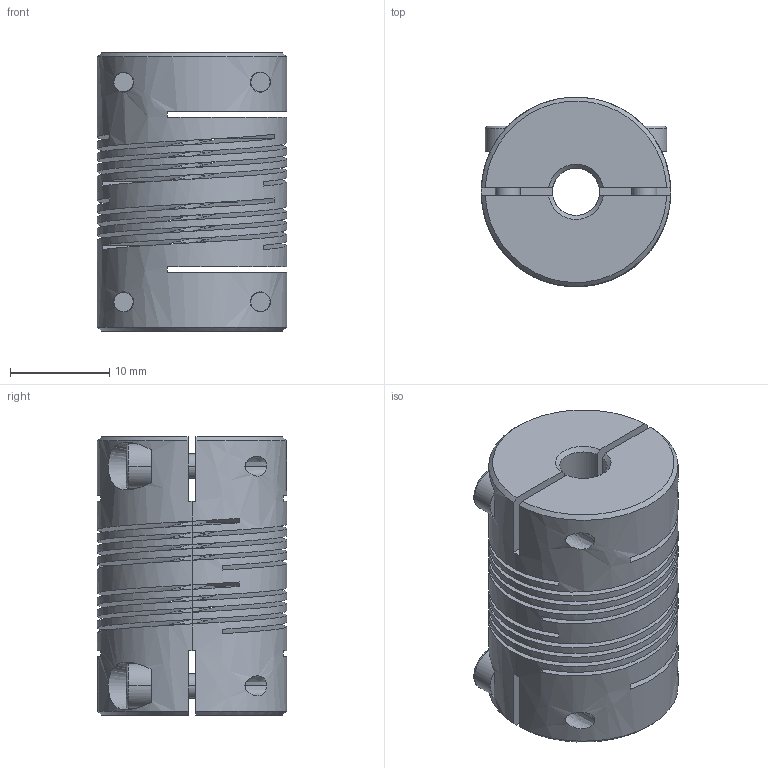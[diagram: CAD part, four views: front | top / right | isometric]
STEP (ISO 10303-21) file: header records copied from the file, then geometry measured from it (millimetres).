
FILE_DESCRIPTION((''),'2;1');
FILE_NAME('723_19','2026-02-24T',('SYSTEM'),(''),'PRO/ENGINEER BY PARAMETRIC TECHNOLOGY CORPORATION, 2016360','PRO/ENGINEER BY PARAMETRIC TECHNOLOGY CORPORATION, 2016360','');
FILE_SCHEMA(('AUTOMOTIVE_DESIGN { 1 0 10303 214 1 1 1 1 }'));
Length unit declared in the file: inch
Products named in the file (1): 723_19
Bounding box: 19.05 x 19.05 x 28 mm (x, y, z)
Volume: 5916.2 mm3; surface area: 8133.1 mm2
Topology: 1 solids, 1 shells, 195 faces, 576 edges, 376 vertices
Faces by surface type: bspline 195
Entity records: 15264 total; most frequent: CARTESIAN_POINT 10001, ORIENTED_EDGE 1136, EDGE_CURVE 568, B_SPLINE_CURVE_WITH_KNOTS 394, VERTEX_POINT 376, EDGE_LOOP 218, FACE_OUTER_BOUND 195, FILL_AREA_STYLE_COLOUR 195
